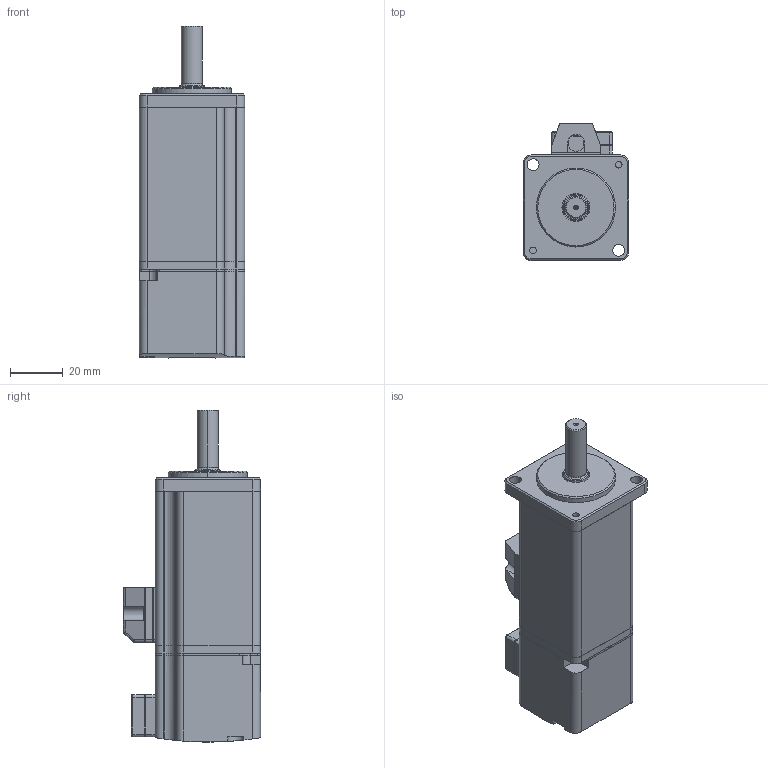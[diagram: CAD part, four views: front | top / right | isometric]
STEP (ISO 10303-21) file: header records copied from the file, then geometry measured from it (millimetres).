
FILE_DESCRIPTION (( 'STEP AP203' ), '1' );
FILE_NAME ('100W.STEP', '2008-02-05T02:57:18', ( 'Metronix' ), ( '' ), 'SwSTEP 2.0', 'SolidWorks 2007', '' );
FILE_SCHEMA (( 'CONFIG_CONTROL_DESIGN' ));
Length unit declared in the file: millimetre
Products named in the file (11): SM00A0PE01K_ル遽; SM00A0PG01K_ル遽; 100W; SM00A0PF01K_ル遽; SM00A0RS01K_ル遽; SM00A0RM01K_ル遽; SM00A0PH01K_ル遽; SM00A0PP01K_ル遽; SM00A0PC01K_ル遽; SM00A0PN01K_ル遽; SM00A0PQ01K_ル遽
Assembly tree (10 placements, depth 2):
  100W
    SM00A0PH01K_ル遽
    SM00A0RM01K_ル遽
    SM00A0PF01K_ル遽
    SM00A0PE01K_ル遽
    SM00A0PN01K_ル遽
    SM00A0PQ01K_ル遽
    SM00A0RS01K_ル遽
    SM00A0PP01K_ル遽
    SM00A0PC01K_ル遽
    SM00A0PG01K_ル遽
Bounding box: 40.07 x 52.05 x 126.08 mm (x, y, z)
Volume: 69328.4 mm3; surface area: 49667.5 mm2
Topology: 10 solids, 10 shells, 569 faces, 1439 edges, 921 vertices
Faces by surface type: cylinder 290, plane 201, cone 53, torus 18, sphere 6, bspline 1
Entity records: 18926 total; most frequent: CARTESIAN_POINT 3546, DIRECTION 3146, ORIENTED_EDGE 2862, EDGE_CURVE 1431, AXIS2_PLACEMENT_3D 1201, VERTEX_POINT 921, VECTOR 744, LINE 744
